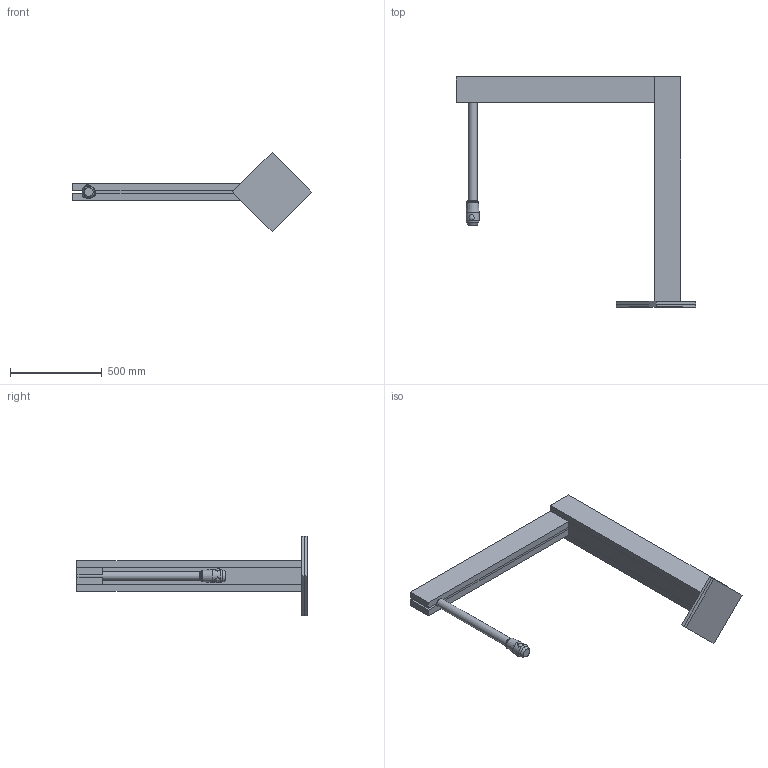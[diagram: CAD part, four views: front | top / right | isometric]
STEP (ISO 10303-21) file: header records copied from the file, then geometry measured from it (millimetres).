
FILE_DESCRIPTION(/* description */ (''),/* implementation_level */ '2;1');
FILE_NAME(/* name */ 'Inverse Post.stp',/* time_stamp */ '2024-10-27T21:26:15-04:00',/* author */ ('nicks'),/* organization */ (''),/* preprocessor_version */ 'ST-DEVELOPER v20',/* originating_system */ 'Autodesk Inventor 2024',/* authorisation */ '');
FILE_SCHEMA (('AUTOMOTIVE_DESIGN { 1 0 10303 214 3 1 1 }'));
Length unit declared in the file: inch
Products named in the file (9): Upside Down Peg; 2 X 6 X 48; 2 X 4 X 42.5; 2 X 6 X 48_1; 2 X 6 X 48_2; PLYWOOD 5.5 X 48 X 0.5; PLYWOOD 12 X 12 X 0.5; ABS 1.5 X 29.5L; Mécanisme Inversé
Assembly tree (11 placements, depth 2):
  Upside Down Peg
    2 X 6 X 48  x2
    2 X 4 X 42.5  x2
    2 X 6 X 48_1
    2 X 6 X 48_2
    PLYWOOD 5.5 X 48 X 0.5
    PLYWOOD 12 X 12 X 0.5  x2
    ABS 1.5 X 29.5L
    Mécanisme Inversé
Bounding box: 1301.75 x 1250.95 x 431.05 mm (x, y, z)
Volume: 38709416 mm3; surface area: 3366453 mm2
Topology: 14 solids, 14 shells, 102 faces, 227 edges, 148 vertices
Faces by surface type: plane 63, cylinder 18, cone 7, sphere 7, bspline 5, torus 2
Full cylindrical faces by diameter (mm): 34.337 x3, 36.338 x1, 38.507 x3, 40.094 x4, 40.894 x1, 48.26 x1, 49.219 x1, 71.12 x1
Entity records: 3341 total; most frequent: CARTESIAN_POINT 1040, DIRECTION 434, ORIENTED_EDGE 368, EDGE_CURVE 184, AXIS2_PLACEMENT_3D 167, VERTEX_POINT 124, LINE 100, VECTOR 100
